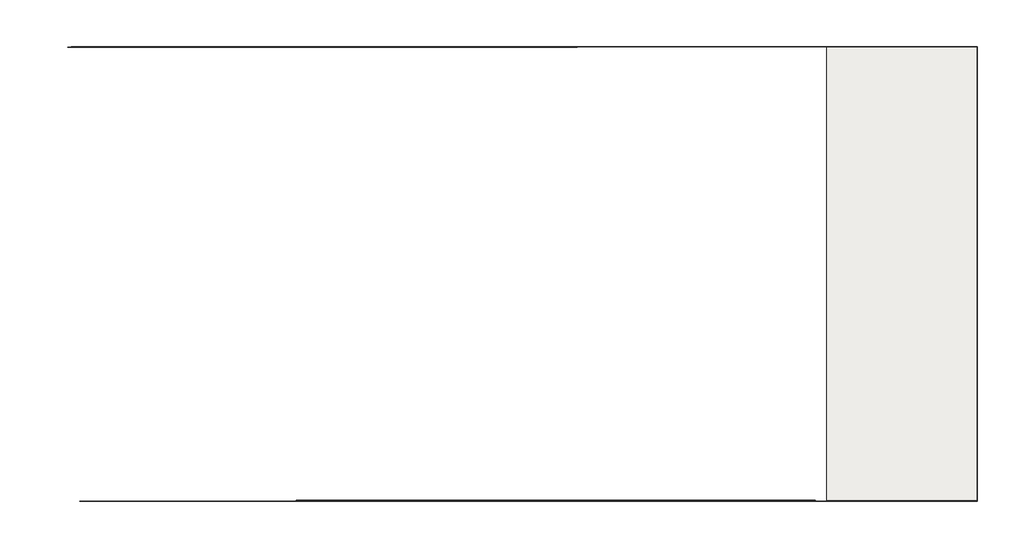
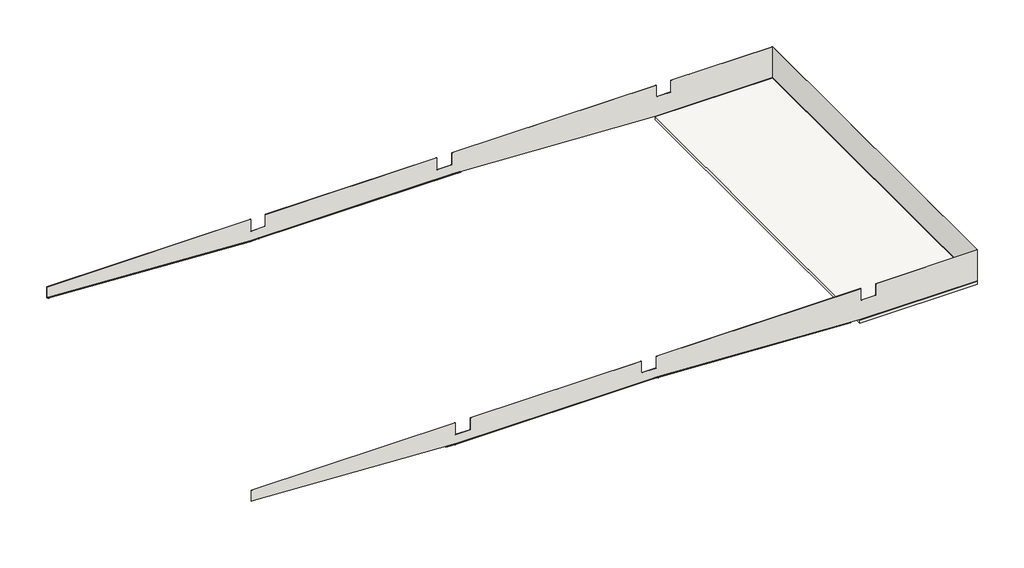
# One storey: 10 slabs, 3 walls.
"""IFC4 building model written with IfcOpenShell, lengths in millimetres."""

from ifc_helpers import new_model, si_unit, frame, origin, place, context, project, spatial, polyline, outline, extrude, transform, mapped, element, save
from components import pieza_112_aqua_blanco_liso_6d121d17, pieza_112_aqua_blanco_liso_228b5f5c, pieza_112_aqua_blanco_liso_c7c84e2d, pieza_112_aqua_blanco_liso_ef66cc84, pieza_112_aqua_blanco_liso_d517fc05, pieza_112_aqua_blanco_liso_bc3448a2, pieza_112_aqua_blanco_liso_e2e24b9b, pieza_112_aqua_blanco_liso_e94905cb

model = new_model("IFC4")

# Units and contexts
model_context = context("Model", 3, world=origin())
ifc_project = project(units=[si_unit("LENGTHUNIT", "METRE", prefix="MILLI")], contexts=[model_context])

# Site, building, storey
site = spatial("IfcSite", under=ifc_project)
building = spatial("IfcBuilding", under=site)
storey = spatial("IfcBuildingStorey", under=building, Name="5_NFondo3PN -2.00", Elevation=-2000.0)

# Slabs
placement = place(None, origin())
element("IfcSlab", 1, ObjectType="GENÉRICO_LOSA 20 cm", at=placement, inside=storey, context=model_context, shape_type="SweptSolid", body=[
    extrude(outline(polyline([(20882.8636311, 50972.368284), (27855.7651167, 50972.368284), (27855.7651167, 29954.368284), (20882.8636311, 29954.368284), (20882.8636311, 50972.368284)])), frame((0.0, 0.0, -2210.0), z_axis=(0.0, 0.0, 1.0), x_axis=(1.0, 0.0, 0.0)), (0.0, 0.0, 1.0), 200.0),
])
element("IfcSlab", 2, ObjectType="Pieza 244 G1_Patrón Recto_Aqua_Blanco_Anti-Slip", at=placement, inside=storey, context=model_context, shape_type="SweptSolid", body=[
    extrude(outline(polyline([(20882.8636311, 50933.3416955), (27816.7385282, 50933.3416955), (27816.7385282, 29993.3948726), (20882.8636311, 29993.3948726), (20882.8636311, 50933.3416955)])), frame((0.0, 0.0, -2009.0), z_axis=(0.0, 0.0, 1.0), x_axis=(1.0, 0.0, 0.0)), (0.0, 0.0, 1.0), 9.0),
])
pieza_112_aqua_blanco_liso_shape = pieza_112_aqua_blanco_liso_6d121d17(model_context)
element("IfcSlab", 3, ObjectType="ROSA GRES_112 : Pieza 112_Aqua_Blanco_Liso", at=placement, inside=storey, context=model_context, shape_type="MappedRepresentation", body=[
    mapped(pieza_112_aqua_blanco_liso_shape, transform((-15118.9687302, 50963.368284, -759.8971731), x_axis=(0.998536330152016, 0.0, -0.054085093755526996), y_axis=(0.0, 1.0, 0.0), z_axis=(0.05408509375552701, 0.0, 0.998536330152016))),
])
pieza_112_aqua_blanco_liso_2_shape = pieza_112_aqua_blanco_liso_228b5f5c(model_context)
element("IfcSlab", 4, ObjectType="ROSA GRES_112 : Pieza 112_Aqua_Blanco_Liso", at=placement, inside=storey, context=model_context, shape_type="MappedRepresentation", body=[
    mapped(pieza_112_aqua_blanco_liso_2_shape, transform((-2638.6055146, 50963.368284, -1410.0), x_axis=(1.0, 0.0, 0.0), y_axis=(0.0, 1.0, 0.0), z_axis=(0.0, 0.0, 1.0))),
])
pieza_112_aqua_blanco_liso_3_shape = pieza_112_aqua_blanco_liso_c7c84e2d(model_context)
element("IfcSlab", 5, ObjectType="ROSA GRES_112 : Pieza 112_Aqua_Blanco_Liso", at=placement, inside=storey, context=model_context, shape_type="MappedRepresentation", body=[
    mapped(pieza_112_aqua_blanco_liso_3_shape, transform((20347.4774344, 29963.368284, -1986.0018702), x_axis=(-0.9987523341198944, 0.0, 0.04993771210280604), y_axis=(0.0, -1.0, 0.0), z_axis=(0.04993771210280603, 0.0, 0.9987523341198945))),
])
pieza_112_aqua_blanco_liso_4_shape = pieza_112_aqua_blanco_liso_ef66cc84(model_context)
element("IfcSlab", 6, ObjectType="ROSA GRES_112 : Pieza 112_Aqua_Blanco_Liso", at=placement, inside=storey, context=model_context, shape_type="MappedRepresentation", body=[
    mapped(pieza_112_aqua_blanco_liso_4_shape, transform((8361.183478, 29963.368284, -1410.0), x_axis=(-1.0, 0.0, 0.0), y_axis=(0.0, -1.0, 0.0), z_axis=(0.0, 0.0, 1.0))),
])
pieza_112_aqua_blanco_liso_5_shape = pieza_112_aqua_blanco_liso_d517fc05(model_context)
element("IfcSlab", 7, ObjectType="ROSA GRES_112 : Pieza 112_Aqua_Blanco_Liso", at=placement, inside=storey, context=model_context, shape_type="MappedRepresentation", body=[
    mapped(pieza_112_aqua_blanco_liso_5_shape, transform((-2638.6055146, 50963.368284, -1410.0), x_axis=(-1.0, 0.0, 0.0), y_axis=(0.0, -1.0, 0.0), z_axis=(0.0, 0.0, 1.0))),
])
pieza_112_aqua_blanco_liso_6_shape = pieza_112_aqua_blanco_liso_bc3448a2(model_context)
element("IfcSlab", 8, ObjectType="ROSA GRES_112 : Pieza 112_Aqua_Blanco_Liso", at=placement, inside=storey, context=model_context, shape_type="MappedRepresentation", body=[
    mapped(pieza_112_aqua_blanco_liso_6_shape, transform((9361.1499347, 50963.368284, -1433.9132147), x_axis=(-0.9987523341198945, 0.0, 0.04993771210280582), y_axis=(0.0, -1.0, 0.0), z_axis=(0.04993771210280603, 0.0, 0.9987523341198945))),
])
pieza_112_aqua_blanco_liso_7_shape = pieza_112_aqua_blanco_liso_e2e24b9b(model_context)
element("IfcSlab", 9, ObjectType="ROSA GRES_112 : Pieza 112_Aqua_Blanco_Liso", at=placement, inside=storey, context=model_context, shape_type="MappedRepresentation", body=[
    mapped(pieza_112_aqua_blanco_liso_7_shape, transform((-3639.2854138, 29963.368284, -1381.6870166), x_axis=(0.9985363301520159, 0.0, -0.054085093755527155), y_axis=(0.0, 1.0, 0.0), z_axis=(0.05408509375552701, 0.0, 0.998536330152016))),
])
pieza_112_aqua_blanco_liso_8_shape = pieza_112_aqua_blanco_liso_e94905cb(model_context)
element("IfcSlab", 10, ObjectType="ROSA GRES_112 : Pieza 112_Aqua_Blanco_Liso", at=placement, inside=storey, context=model_context, shape_type="MappedRepresentation", body=[
    mapped(pieza_112_aqua_blanco_liso_8_shape, transform((8361.183478, 29963.368284, -1410.0), x_axis=(1.0, 0.0, 0.0), y_axis=(0.0, 1.0, 0.0), z_axis=(0.0, 0.0, 1.0))),
])

# Walls
element("IfcWall", 11, ObjectType="Pieza 244 G1_Patrón Recto_Aqua_Blanco_Liso", at=placement, inside=storey, context=model_context, shape_type="SweptSolid", body=[
    extrude(outline(polyline([(27855.7651167, 50963.368284), (27855.7651167, 29963.368284), (27846.7651167, 29963.368284), (27846.7651167, 50963.368284), (27855.7651167, 50963.368284)])), frame((0.0, 0.0, -1970.0), z_axis=(0.0, 0.0, 1.0), x_axis=(1.0, 0.0, 0.0)), (0.0, 0.0, 1.0), 1916.0),
])
element("IfcWall", 12, ObjectType="Pieza 244 G1_Patrón Recto_Aqua_Blanco_Liso", at=placement, inside=storey, context=model_context, shape_type="SweptSolid", body=[
    extrude(outline(polyline([(-54.0, 27846.7651167), (-54.0, 21822.8636311), (-790.0, 21822.8636311), (-790.0, 20942.8636311), (-54.0, 20942.8636311), (-54.0, 8822.8865551), (-790.0, 8822.8865551), (-790.0, 7942.8865551), (-54.0, 7942.8865551), (-54.0, -2206.3902373), (-790.0, -2206.3902373), (-790.0, -3086.8109902), (-54.0, -3086.8109902), (-54.0, -15176.7957258), (-720.0, -15176.7954019), (-720.0, -15115.9878122), (-1370.0, -3115.4795477), (-1370.0, 8883.8859326), (-1970.0, 20883.8630088), (-1970.0, 27846.7651167), (-54.0, 27846.7651167)])), frame((0.0, 50963.368284, 0.0), z_axis=(0.0, 1.0, 0.0), x_axis=(0.0, 0.0, 1.0)), (0.0, 0.0, 1.0), 9.0),
])
element("IfcWall", 13, ObjectType="Pieza 244 G1_Patrón Recto_Aqua_Blanco_Liso", at=placement, inside=storey, context=model_context, shape_type="SweptSolid", body=[
    extrude(outline(polyline([(-54.0, 27846.7651167), (-54.0, 21822.8636311), (-790.0, 21822.8636311), (-790.0, 20942.8636311), (-54.0, 20942.8636311), (-54.0, 8822.8865551), (-790.0, 8822.8865551), (-790.0, 7942.8865551), (-54.0, 7942.8865551), (-54.0, -2206.3902373), (-790.0, -2206.3902373), (-790.0, -3086.8109902), (-54.0, -3086.8109902), (-54.0, -15176.7957258), (-720.0, -15176.7954019), (-720.0, -15115.9878132), (-1370.0000001, -3115.4795477), (-1370.0000001, 8828.4614154), (-1970.0, 20828.4384905), (-1970.0, 27846.7651167), (-54.0, 27846.7651167)])), frame((0.0, 29954.368284, 0.0), z_axis=(0.0, 1.0, 0.0), x_axis=(0.0, 0.0, 1.0)), (0.0, 0.0, 1.0), 9.0),
])

save(model, "model.ifc")
